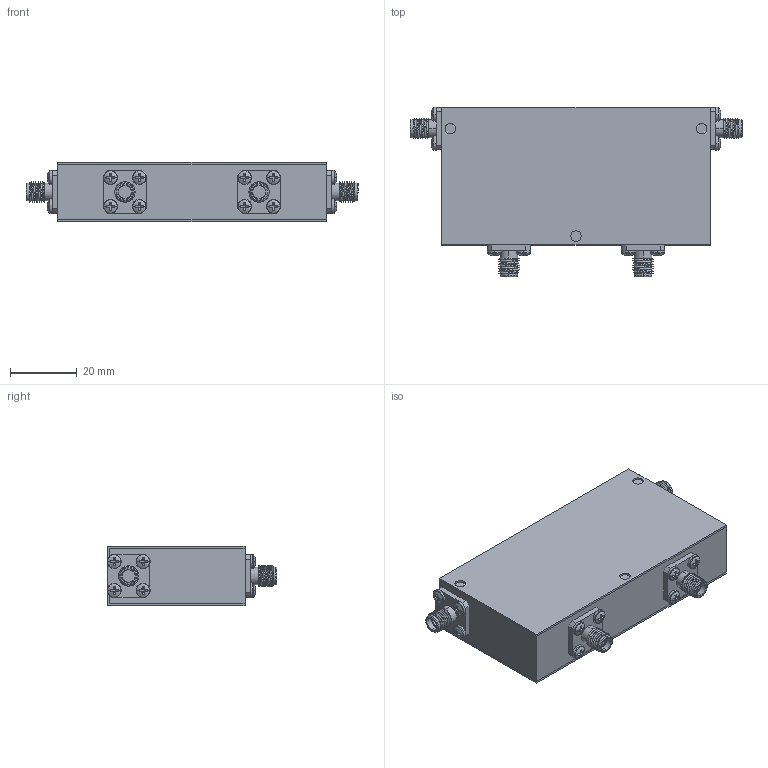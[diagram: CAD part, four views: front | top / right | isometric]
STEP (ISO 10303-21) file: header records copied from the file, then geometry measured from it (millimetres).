
FILE_DESCRIPTION (( 'STEP AP214' ), '1' );
FILE_NAME ('Package 17 Circ FFFF.step', '2021-12-01T20:58:45', ( '' ), ( '' ), 'SwSTEP 2.0', 'SolidWorks 2016', '' );
FILE_SCHEMA (( 'AUTOMOTIVE_DESIGN' ));
Length unit declared in the file: inch
Products named in the file (5): Package 17 Circ FFFF; pan cross head_ai_CR-PHMS 0.086-56x0.125x0.125-N; Delta SMA-Female 0.500 flange Threaded; Package 17; Package Size 17
Assembly tree (22 placements, depth 2):
  Package 17 Circ FFFF
    Package 17
    Delta SMA-Female 0.500 flange Threaded  x4
    pan cross head_ai_CR-PHMS 0.086-56x0.125x0.125-N  x16
    Package Size 17
Bounding box: 99.31 x 50.76 x 17.78 mm (x, y, z)
Volume: 60303.2 mm3; surface area: 30347.5 mm2
Topology: 22 solids, 22 shells, 552 faces, 1252 edges, 772 vertices
Faces by surface type: plane 304, cylinder 164, torus 40, sphere 32, bspline 12
Entity records: 3769 total; most frequent: CARTESIAN_POINT 1210, DIRECTION 537, ORIENTED_EDGE 434, EDGE_CURVE 217, AXIS2_PLACEMENT_3D 216, VERTEX_POINT 139, EDGE_LOOP 116, LINE 105
